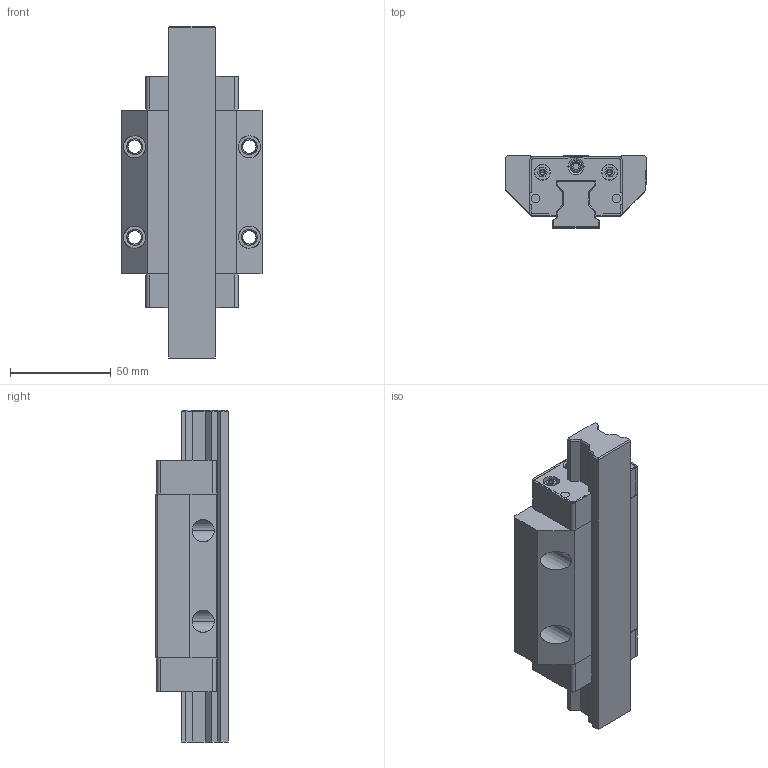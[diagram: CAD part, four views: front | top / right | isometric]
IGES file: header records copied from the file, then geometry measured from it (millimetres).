
Start section: 3D InterOp IGES (v. 2019 1.0.2), Spatial Corp. Copyright (c) 1999-2017.
Global section: file name: R1853_size25.igs; native system: Spatial Corp.; preprocessor: 3D InterOp GENERIC/IGES 3.0; author: Noname; organization: Noname; date: 20220630.112919; units: millimetre
Bounding box: 70 x 36 x 165 mm (x, y, z)
Surface area: 61843.4 mm2 (no closed solid volume)
Topology: 0 solids, 0 shells, 386 faces, 1984 edges, 1972 vertices
Faces by surface type: extrusion 236, revolution 150
